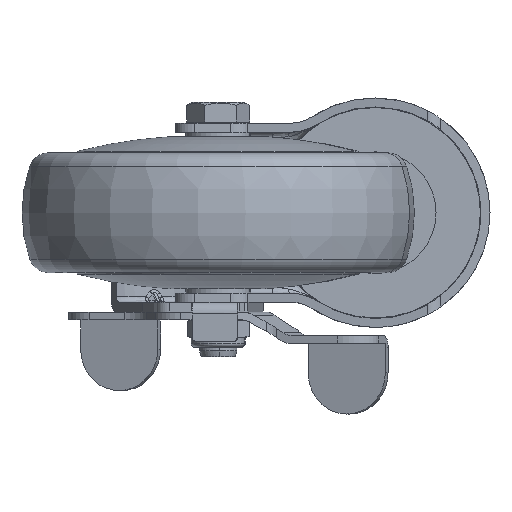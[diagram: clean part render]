
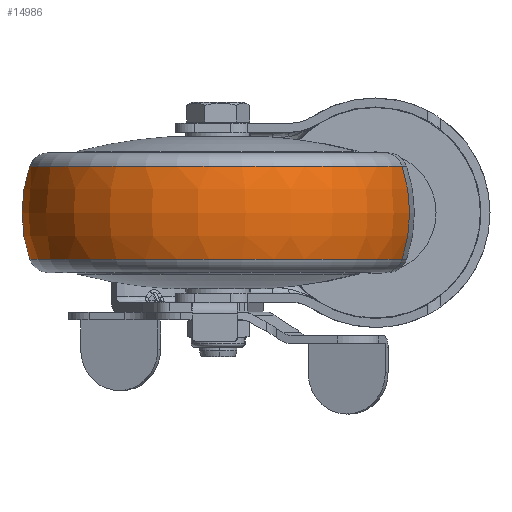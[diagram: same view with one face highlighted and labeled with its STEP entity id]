
A CAD part, front view. The second image highlights one B-rep face of the part: STEP entity #14986.
In plain terms, the highlighted toroidal (fillet/blend) face has major radius 13.113 mm and minor radius 36.887 mm.
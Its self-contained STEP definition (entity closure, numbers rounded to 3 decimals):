
#40 = DIRECTION ( 'NONE',  ( 0., 0., 1. ) ) ;
#238 = DIRECTION ( 'NONE',  ( -1., 0., 0. ) ) ;
#260 = DIRECTION ( 'NONE',  ( 0., 1., 0. ) ) ;
#2478 = ORIENTED_EDGE ( 'NONE', *, *, #20172, .T. ) ;
#2581 = CARTESIAN_POINT ( 'NONE',  ( 0., 0., 13.113 ) ) ;
#2668 = DIRECTION ( 'NONE',  ( 0., 0., 1. ) ) ;
#3008 = TOROIDAL_SURFACE ( 'NONE', #5960, 13.113, 36.887 ) ;
#3522 = CIRCLE ( 'NONE', #10736, 36.887 ) ;
#3670 = CARTESIAN_POINT ( 'NONE',  ( 0., 0., -13.113 ) ) ;
#3677 = CARTESIAN_POINT ( 'NONE',  ( 11.857, 0., 48.042 ) ) ;
#4092 = FACE_OUTER_BOUND ( 'NONE', #11996, .T. ) ;
#4210 = CARTESIAN_POINT ( 'NONE',  ( -11.857, 0., 0. ) ) ;
#4403 = DIRECTION ( 'NONE',  ( -1., 0., 0. ) ) ;
#5216 = CARTESIAN_POINT ( 'NONE',  ( -11.857, 0., -48.042 ) ) ;
#5960 = AXIS2_PLACEMENT_3D ( 'NONE', #18478, #4403, #13540 ) ;
#6253 = EDGE_CURVE ( 'NONE', #17561, #9237, #3522, .T. ) ;
#6349 = ORIENTED_EDGE ( 'NONE', *, *, #13687, .F. ) ;
#6447 = CIRCLE ( 'NONE', #17936, 36.887 ) ;
#8842 = DIRECTION ( 'NONE',  ( 0., -1., 0. ) ) ;
#9237 = VERTEX_POINT ( 'NONE', #14248 ) ;
#9600 = ORIENTED_EDGE ( 'NONE', *, *, #6253, .T. ) ;
#10736 = AXIS2_PLACEMENT_3D ( 'NONE', #2581, #8842, #15092 ) ;
#11996 = EDGE_LOOP ( 'NONE', ( #20048, #2478, #9600, #6349 ) ) ;
#12442 = EDGE_CURVE ( 'NONE', #18595, #15339, #6447, .T. ) ;
#12825 = AXIS2_PLACEMENT_3D ( 'NONE', #17407, #238, #40 ) ;
#13540 = DIRECTION ( 'NONE',  ( 0., 0., 1. ) ) ;
#13655 = DIRECTION ( 'NONE',  ( -1., 0., 0. ) ) ;
#13687 = EDGE_CURVE ( 'NONE', #15339, #9237, #16067, .T. ) ;
#14231 = DIRECTION ( 'NONE',  ( 0., 0., 1. ) ) ;
#14248 = CARTESIAN_POINT ( 'NONE',  ( -11.857, 0., 48.042 ) ) ;
#14986 = ADVANCED_FACE ( 'NONE', ( #4092 ), #3008, .T. ) ;
#15092 = DIRECTION ( 'NONE',  ( 0., 0., -1. ) ) ;
#15339 = VERTEX_POINT ( 'NONE', #5216 ) ;
#15421 = AXIS2_PLACEMENT_3D ( 'NONE', #4210, #13655, #2668 ) ;
#16067 = CIRCLE ( 'NONE', #15421, 48.042 ) ;
#17407 = CARTESIAN_POINT ( 'NONE',  ( 11.857, 0., 0. ) ) ;
#17411 = CIRCLE ( 'NONE', #12825, 48.042 ) ;
#17561 = VERTEX_POINT ( 'NONE', #3677 ) ;
#17640 = CARTESIAN_POINT ( 'NONE',  ( 11.857, 0., -48.042 ) ) ;
#17936 = AXIS2_PLACEMENT_3D ( 'NONE', #3670, #260, #14231 ) ;
#18478 = CARTESIAN_POINT ( 'NONE',  ( 0., 0., 0. ) ) ;
#18595 = VERTEX_POINT ( 'NONE', #17640 ) ;
#20048 = ORIENTED_EDGE ( 'NONE', *, *, #12442, .F. ) ;
#20172 = EDGE_CURVE ( 'NONE', #18595, #17561, #17411, .T. ) ;
